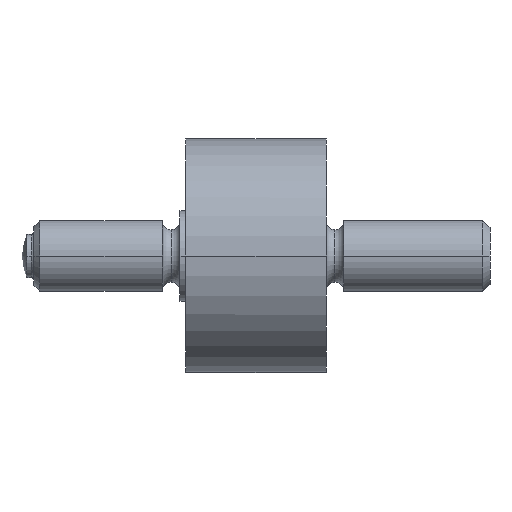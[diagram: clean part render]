
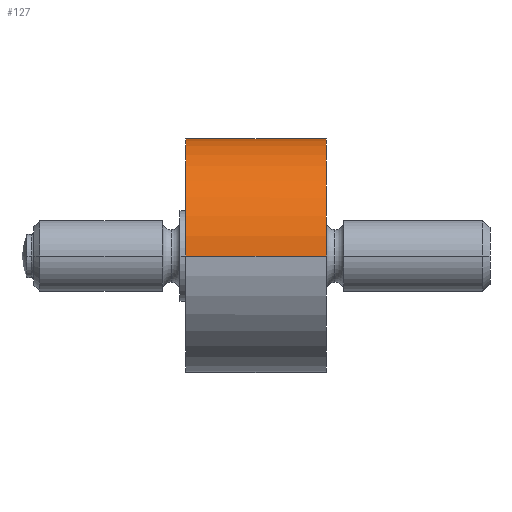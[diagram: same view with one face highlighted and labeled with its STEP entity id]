
A CAD part, left-side view. The second image highlights one B-rep face of the part: STEP entity #127.
In plain terms, the highlighted cylindrical face has radius 10 mm (diameter 20 mm), a partial arc.
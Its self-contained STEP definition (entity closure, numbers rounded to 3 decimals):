
#127=ADVANCED_FACE('',(#199),#200,.T.);
#199=FACE_OUTER_BOUND('',#343,.T.);
#200=CYLINDRICAL_SURFACE('',#344,10.0);
#343=EDGE_LOOP('',(#511,#512,#513,#514,#515,#516,#517,#518));
#344=AXIS2_PLACEMENT_3D('',#519,#520,#521);
#511=ORIENTED_EDGE('',*,*,#998,.F.);
#512=ORIENTED_EDGE('',*,*,#999,.T.);
#513=ORIENTED_EDGE('',*,*,#1000,.F.);
#514=ORIENTED_EDGE('',*,*,#1001,.T.);
#515=ORIENTED_EDGE('',*,*,#1002,.F.);
#516=ORIENTED_EDGE('',*,*,#1003,.F.);
#517=ORIENTED_EDGE('',*,*,#1004,.F.);
#518=ORIENTED_EDGE('',*,*,#1005,.F.);
#519=CARTESIAN_POINT('',(0.0,4.5,0.0));
#520=DIRECTION('',(0.0,-1.0,0.0));
#521=DIRECTION('',(1.0,0.0,0.0));
#998=EDGE_CURVE('',#1161,#1162,#1163,.T.);
#999=EDGE_CURVE('',#1161,#1164,#1165,.T.);
#1000=EDGE_CURVE('',#1166,#1164,#1167,.T.);
#1001=EDGE_CURVE('',#1166,#1168,#1169,.T.);
#1002=EDGE_CURVE('',#1170,#1168,#1171,.T.);
#1003=EDGE_CURVE('',#1172,#1170,#1173,.T.);
#1004=EDGE_CURVE('',#1174,#1172,#1175,.T.);
#1005=EDGE_CURVE('',#1162,#1174,#1176,.T.);
#1161=VERTEX_POINT('',#1410);
#1162=VERTEX_POINT('',#1411);
#1163=LINE('',#1412,#1413);
#1164=VERTEX_POINT('',#1414);
#1165=CIRCLE('',#1415,10.0);
#1166=VERTEX_POINT('',#1416);
#1167=LINE('',#1417,#1418);
#1168=VERTEX_POINT('',#1419);
#1169=CIRCLE('',#1420,10.0);
#1170=VERTEX_POINT('',#1421);
#1171=LINE('',#1422,#1423);
#1172=VERTEX_POINT('',#1424);
#1173=B_SPLINE_CURVE_WITH_KNOTS('',3,(#1425,#1426,#1427,#1428,#1429,#1430,#1431,#1432,#1433,#1434),.UNSPECIFIED.,.F.,.F.,(4,2,2,2,4),(0.009,0.057,0.113,0.17,0.226),.UNSPECIFIED.);
#1174=VERTEX_POINT('',#1435);
#1175=B_SPLINE_CURVE_WITH_KNOTS('',3,(#1436,#1437,#1438,#1439),.UNSPECIFIED.,.F.,.F.,(4,4),(0.0,0.009),.UNSPECIFIED.);
#1176=B_SPLINE_CURVE_WITH_KNOTS('',3,(#1440,#1441,#1442,#1443,#1444,#1445,#1446,#1447,#1448,#1449),.UNSPECIFIED.,.F.,.F.,(4,2,2,2,4),(0.679,0.736,0.792,0.849,0.906),.UNSPECIFIED.);
#1410=CARTESIAN_POINT('',(10.0,9.0,0.0));
#1411=CARTESIAN_POINT('',(10.0,4.35,0.));
#1412=CARTESIAN_POINT('',(10.0,4.5,0.));
#1413=VECTOR('',#1759,1.0);
#1414=CARTESIAN_POINT('',(-10.0,9.0,0.));
#1415=AXIS2_PLACEMENT_3D('',#1760,#1761,#1762);
#1416=CARTESIAN_POINT('',(-10.0,-3.0,0.));
#1417=CARTESIAN_POINT('',(-10.0,4.5,0.));
#1418=VECTOR('',#1763,1.0);
#1419=CARTESIAN_POINT('',(10.0,-3.0,0.0));
#1420=AXIS2_PLACEMENT_3D('',#1764,#1765,#1766);
#1421=CARTESIAN_POINT('',(10.0,1.35,0.));
#1422=CARTESIAN_POINT('',(10.0,4.5,0.));
#1423=VECTOR('',#1767,1.0);
#1424=CARTESIAN_POINT('',(9.887,2.756,1.497));
#1425=CARTESIAN_POINT('',(9.887,2.756,1.497));
#1426=CARTESIAN_POINT('',(9.889,2.596,1.487));
#1427=CARTESIAN_POINT('',(9.895,2.43,1.45));
#1428=CARTESIAN_POINT('',(9.914,2.091,1.309));
#1429=CARTESIAN_POINT('',(9.929,1.922,1.194));
#1430=CARTESIAN_POINT('',(9.958,1.656,0.928));
#1431=CARTESIAN_POINT('',(9.973,1.541,0.759));
#1432=CARTESIAN_POINT('',(9.994,1.388,0.39));
#1433=CARTESIAN_POINT('',(10.0,1.35,0.189));
#1434=CARTESIAN_POINT('',(10.0,1.35,0.));
#1435=CARTESIAN_POINT('',(9.887,2.85,1.5));
#1436=CARTESIAN_POINT('',(9.887,2.85,1.5));
#1437=CARTESIAN_POINT('',(9.887,2.819,1.5));
#1438=CARTESIAN_POINT('',(9.887,2.788,1.499));
#1439=CARTESIAN_POINT('',(9.887,2.756,1.497));
#1440=CARTESIAN_POINT('',(10.0,4.35,0.));
#1441=CARTESIAN_POINT('',(10.0,4.35,0.189));
#1442=CARTESIAN_POINT('',(9.994,4.312,0.39));
#1443=CARTESIAN_POINT('',(9.973,4.159,0.759));
#1444=CARTESIAN_POINT('',(9.958,4.044,0.928));
#1445=CARTESIAN_POINT('',(9.929,3.778,1.194));
#1446=CARTESIAN_POINT('',(9.914,3.609,1.309));
#1447=CARTESIAN_POINT('',(9.893,3.24,1.462));
#1448=CARTESIAN_POINT('',(9.887,3.039,1.5));
#1449=CARTESIAN_POINT('',(9.887,2.85,1.5));
#1759=DIRECTION('',(0.0,-1.0,0.0));
#1760=CARTESIAN_POINT('',(0.0,9.0,0.0));
#1761=DIRECTION('',(0.0,-1.0,0.0));
#1762=DIRECTION('',(1.0,0.0,0.0));
#1763=DIRECTION('',(0.0,1.0,0.0));
#1764=CARTESIAN_POINT('',(0.0,-3.0,0.0));
#1765=DIRECTION('',(0.0,1.0,0.0));
#1766=DIRECTION('',(1.0,0.0,0.0));
#1767=DIRECTION('',(0.0,-1.0,0.0));
